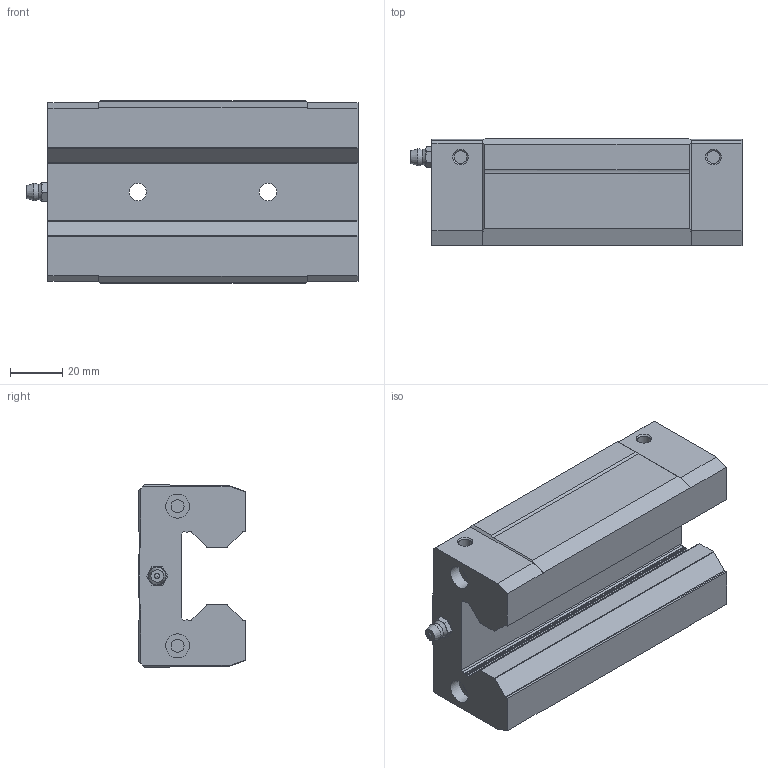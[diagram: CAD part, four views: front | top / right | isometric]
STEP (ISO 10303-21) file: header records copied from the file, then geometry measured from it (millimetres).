
FILE_DESCRIPTION(/* description */ ('STEP AP214'),/* implementation_level */ '2;1');
FILE_NAME(/* name */ 'ERG35P6VC1N0______CAD_NO_(A-MT61)',/* time_stamp */ '2026-05-18T11:24:42+02:00',/* author */ ('License CC BY-ND 4.0'),/* organization */ ('CADENAS'),/* preprocessor_version */ 'ST-DEVELOPER v20',/* originating_system */ 'PARTsolutions',/* authorisation */ ' ');
FILE_SCHEMA (('AUTOMOTIVE_DESIGN {1 0 10303 214 3 1 1}'));
Length unit declared in the file: millimetre
Products named in the file (3): ERG35P6VC1N0______CAD_NO_(A-MT61); ERG35V01 Slider; hsr_ftht_A-M6F_grease_nipple_joint
Assembly tree (2 placements, depth 2):
  ERG35P6VC1N0______CAD_NO_(A-MT61)
    ERG35V01 Slider
    hsr_ftht_A-M6F_grease_nipple_joint
Bounding box: 127.41 x 41 x 70 mm (x, y, z)
Volume: 246627.4 mm3; surface area: 41208.4 mm2
Topology: 2 solids, 2 shells, 167 faces, 413 edges, 268 vertices
Faces by surface type: plane 98, cylinder 41, cone 25, sphere 2, torus 1
Full cylindrical faces by diameter (mm): 4.917 x6, 5 x4, 6 x1, 6.647 x6, 9.2 x4, 10.2 x2
Entity records: 4713 total; most frequent: CARTESIAN_POINT 860, DIRECTION 782, ORIENTED_EDGE 712, EDGE_CURVE 356, AXIS2_PLACEMENT_3D 280, VERTEX_POINT 260, FACE_BOUND 238, EDGE_LOOP 234
